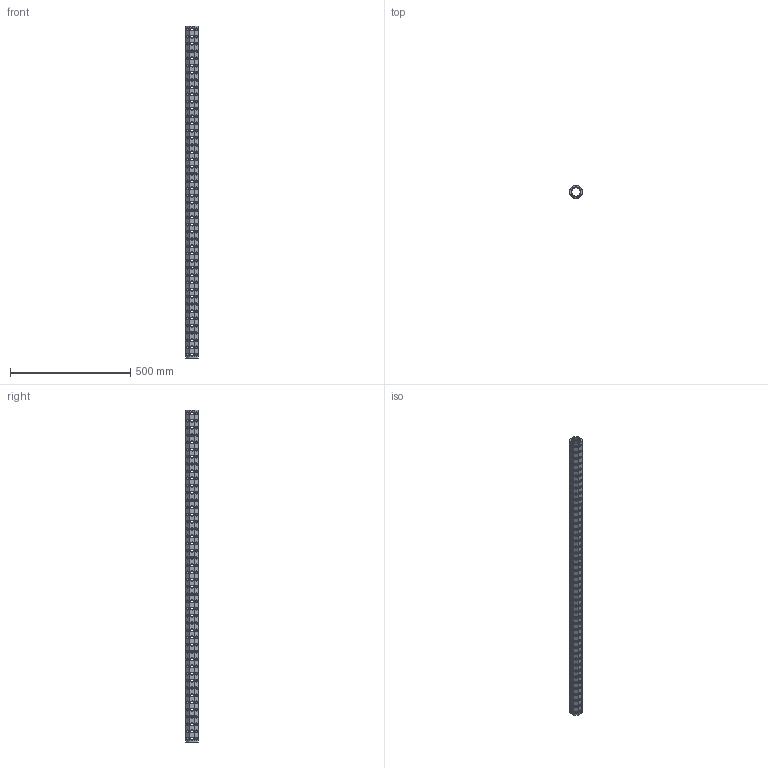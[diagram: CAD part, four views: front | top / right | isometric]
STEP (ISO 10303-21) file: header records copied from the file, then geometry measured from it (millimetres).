
FILE_DESCRIPTION(('CATIA V5 STEP Exchange'),'2;1');
FILE_NAME('U:\Room\唐宝山\EGT002\46-01-010275-01-EGT002-1378.stp','2021-08-24T01:23:46+00:00',('none'),('none'),'CATIA Version 5 Release 21 GA (IN-10)','CATIA V5 STEP AP203','none');
FILE_SCHEMA(('CONFIG_CONTROL_DESIGN'));
Products named in the file (1): 46-01-010275-01-EGT002-1378
Bounding box: 50 x 50 x 1378 mm (x, y, z)
Volume: 981734 mm3; surface area: 473866.9 mm2
Topology: 1 solids, 1 shells, 1924 faces, 5306 edges, 3292 vertices
Faces by surface type: cone 1104, cylinder 794, plane 26
Entity records: 78235 total; most frequent: CARTESIAN_POINT 31558, ORIENTED_EDGE 10612, DIRECTION 7524, EDGE_CURVE 5306, AXIS2_PLACEMENT_3D 3539, VERTEX_POINT 3292, EDGE_LOOP 2570, VECTOR 2062
